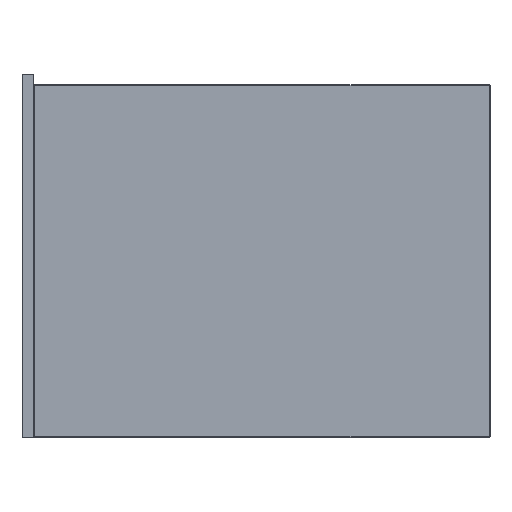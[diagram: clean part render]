
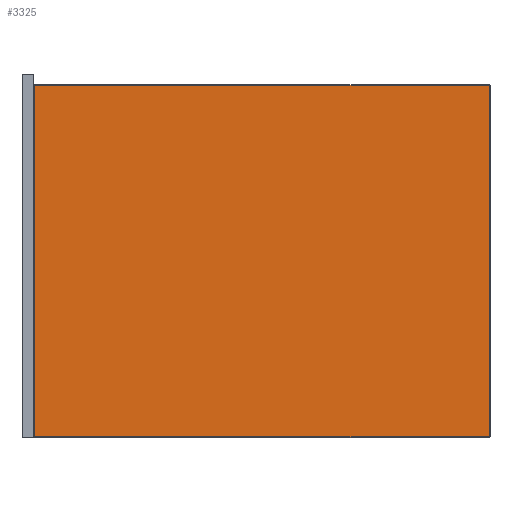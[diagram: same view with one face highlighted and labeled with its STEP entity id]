
A CAD part, left-side view. The second image highlights one B-rep face of the part: STEP entity #3325.
In plain terms, the highlighted planar face has unit normal (-1, 0, 0) as drawn and (0, 0, -1) by its records, which use the part's own axes.
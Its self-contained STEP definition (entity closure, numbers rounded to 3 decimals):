
#45 = CARTESIAN_POINT ( 'NONE',  ( 225., -291., 0. ) ) ;
#58 = CARTESIAN_POINT ( 'NONE',  ( 226., 291., 0. ) ) ;
#234 = CARTESIAN_POINT ( 'NONE',  ( 225., 291., 0. ) ) ;
#422 = FACE_OUTER_BOUND ( 'NONE', #2157, .T. ) ;
#439 = DIRECTION ( 'NONE',  ( -1., 0., 0. ) ) ;
#453 = EDGE_CURVE ( 'NONE', #2388, #1194, #3294, .T. ) ;
#475 = PLANE ( 'NONE',  #1582 ) ;
#780 = VERTEX_POINT ( 'NONE', #234 ) ;
#1076 = CARTESIAN_POINT ( 'NONE',  ( -225., 292., 0. ) ) ;
#1114 = EDGE_CURVE ( 'NONE', #780, #2388, #2763, .T. ) ;
#1124 = EDGE_CURVE ( 'NONE', #1287, #780, #2181, .T. ) ;
#1194 = VERTEX_POINT ( 'NONE', #3015 ) ;
#1287 = VERTEX_POINT ( 'NONE', #2552 ) ;
#1413 = CARTESIAN_POINT ( 'NONE',  ( 225., -292., 0. ) ) ;
#1490 = ORIENTED_EDGE ( 'NONE', *, *, #1114, .T. ) ;
#1507 = CARTESIAN_POINT ( 'NONE',  ( 0., 0., 0. ) ) ;
#1582 = AXIS2_PLACEMENT_3D ( 'NONE', #1507, #2336, #439 ) ;
#1774 = EDGE_CURVE ( 'NONE', #1194, #1287, #2402, .T. ) ;
#1882 = ORIENTED_EDGE ( 'NONE', *, *, #453, .T. ) ;
#1916 = DIRECTION ( 'NONE',  ( 1., 0., 0. ) ) ;
#1932 = CARTESIAN_POINT ( 'NONE',  ( -226., -291., 0. ) ) ;
#2072 = ORIENTED_EDGE ( 'NONE', *, *, #1774, .T. ) ;
#2140 = DIRECTION ( 'NONE',  ( 0., 1., 0. ) ) ;
#2157 = EDGE_LOOP ( 'NONE', ( #2072, #3089, #1490, #1882 ) ) ;
#2181 = LINE ( 'NONE', #58, #3459 ) ;
#2336 = DIRECTION ( 'NONE',  ( 0., 0., -1. ) ) ;
#2388 = VERTEX_POINT ( 'NONE', #45 ) ;
#2402 = LINE ( 'NONE', #1076, #2647 ) ;
#2445 = DIRECTION ( 'NONE',  ( 0., -1., 0. ) ) ;
#2471 = VECTOR ( 'NONE', #2445, 1000. ) ;
#2480 = VECTOR ( 'NONE', #2994, 1000. ) ;
#2552 = CARTESIAN_POINT ( 'NONE',  ( -225., 291., 0. ) ) ;
#2647 = VECTOR ( 'NONE', #2140, 1000. ) ;
#2763 = LINE ( 'NONE', #1413, #2471 ) ;
#2994 = DIRECTION ( 'NONE',  ( -1., 0., 0. ) ) ;
#3015 = CARTESIAN_POINT ( 'NONE',  ( -225., -291., 0. ) ) ;
#3089 = ORIENTED_EDGE ( 'NONE', *, *, #1124, .T. ) ;
#3294 = LINE ( 'NONE', #1932, #2480 ) ;
#3325 = ADVANCED_FACE ( 'NONE', ( #422 ), #475, .T. ) ;
#3459 = VECTOR ( 'NONE', #1916, 1000. ) ;
